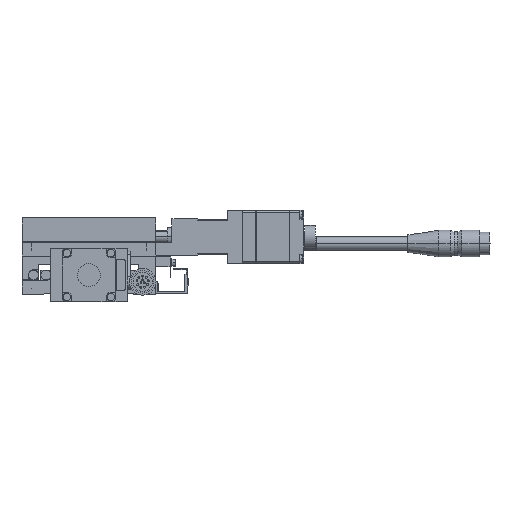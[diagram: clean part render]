
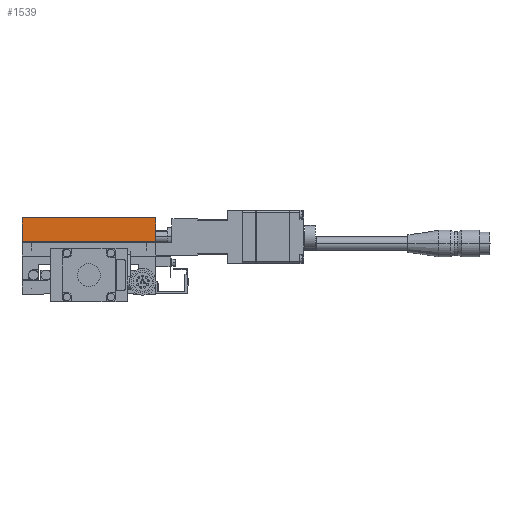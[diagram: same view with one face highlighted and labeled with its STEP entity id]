
A CAD part, left-side view. The second image highlights one B-rep face of the part: STEP entity #1539.
In plain terms, the highlighted planar face has unit normal (-1, 0, 0).
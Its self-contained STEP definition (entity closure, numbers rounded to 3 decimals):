
#1539=ADVANCED_FACE('',(#3966),#3967,.F.);
#3966=FACE_OUTER_BOUND('',#6846,.T.);
#3967=PLANE('',#6847);
#6846=EDGE_LOOP('',(#15143,#15144,#15145,#15146));
#6847=AXIS2_PLACEMENT_3D('',#15147,#15148,#15149);
#15143=ORIENTED_EDGE('',*,*,#20677,.T.);
#15144=ORIENTED_EDGE('',*,*,#20728,.F.);
#15145=ORIENTED_EDGE('',*,*,#20729,.F.);
#15146=ORIENTED_EDGE('',*,*,#20609,.T.);
#15147=CARTESIAN_POINT('',(-35.,-35.,40.0));
#15148=DIRECTION('',(1.0,0.,0.));
#15149=DIRECTION('',(0.,0.,-1.0));
#20609=EDGE_CURVE('',#25405,#25403,#25406,.T.);
#20677=EDGE_CURVE('',#25403,#25510,#25512,.T.);
#20728=EDGE_CURVE('',#25582,#25510,#25583,.T.);
#20729=EDGE_CURVE('',#25405,#25582,#25584,.T.);
#25403=VERTEX_POINT('',#32305);
#25405=VERTEX_POINT('',#32308);
#25406=LINE('',#32309,#32310);
#25510=VERTEX_POINT('',#32458);
#25512=LINE('',#32461,#32462);
#25582=VERTEX_POINT('',#32560);
#25583=LINE('',#32561,#32562);
#25584=LINE('',#32563,#32564);
#32305=CARTESIAN_POINT('',(-35.,35.,40.0));
#32308=CARTESIAN_POINT('',(-35.,-35.,40.0));
#32309=CARTESIAN_POINT('',(-35.,-35.,40.0));
#32310=VECTOR('',#38595,1000.0);
#32458=CARTESIAN_POINT('',(-35.,35.,27.5));
#32461=CARTESIAN_POINT('',(-35.,35.,40.0));
#32462=VECTOR('',#38707,1000.0);
#32560=CARTESIAN_POINT('',(-35.,-35.,27.5));
#32561=CARTESIAN_POINT('',(-35.,-35.,27.5));
#32562=VECTOR('',#38802,1000.0);
#32563=CARTESIAN_POINT('',(-35.,-35.,40.0));
#32564=VECTOR('',#38803,1000.0);
#38595=DIRECTION('',(0.,1.0,0.0));
#38707=DIRECTION('',(0.,0.,-1.0));
#38802=DIRECTION('',(0.,1.0,0.0));
#38803=DIRECTION('',(0.,0.,-1.0));
